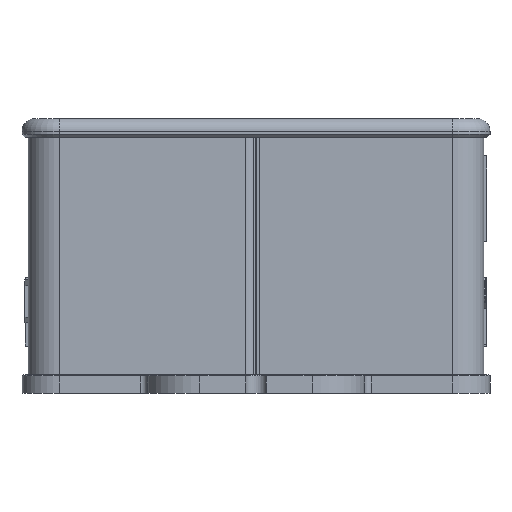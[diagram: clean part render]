
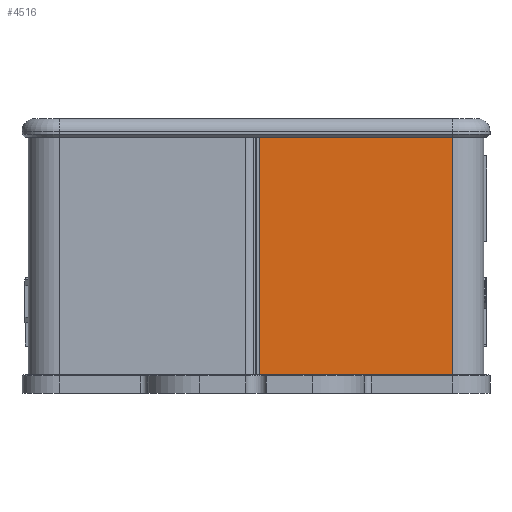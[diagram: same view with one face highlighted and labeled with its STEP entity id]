
A CAD part, left-side view. The second image highlights one B-rep face of the part: STEP entity #4516.
In plain terms, the highlighted planar face has unit normal (-1, 0, 0).
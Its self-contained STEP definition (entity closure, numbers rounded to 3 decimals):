
#1325=FACE_OUTER_BOUND('',#12101,.T.);
#4516=ADVANCED_FACE('',(#1325),#7871,.T.);
#7871=PLANE('',#64641);
#12101=EDGE_LOOP('',(#16023,#16024,#16025,#16026));
#16023=ORIENTED_EDGE('',*,*,#40496,.F.);
#16024=ORIENTED_EDGE('',*,*,#40497,.F.);
#16025=ORIENTED_EDGE('',*,*,#40498,.T.);
#16026=ORIENTED_EDGE('',*,*,#40499,.T.);
#34427=VERTEX_POINT('',#87118);
#34428=VERTEX_POINT('',#87119);
#34429=VERTEX_POINT('',#87121);
#34430=VERTEX_POINT('',#87123);
#40496=EDGE_CURVE('',#34427,#34428,#49654,.T.);
#40497=EDGE_CURVE('',#34429,#34427,#49655,.T.);
#40498=EDGE_CURVE('',#34429,#34430,#49656,.T.);
#40499=EDGE_CURVE('',#34430,#34428,#49657,.T.);
#49654=LINE('',#87117,#57237);
#49655=LINE('',#87120,#57238);
#49656=LINE('',#87122,#57239);
#49657=LINE('',#87124,#57240);
#57237=VECTOR('',#69721,1.);
#57238=VECTOR('',#69722,1.);
#57239=VECTOR('',#69723,1.);
#57240=VECTOR('',#69724,1.);
#64641=AXIS2_PLACEMENT_3D('',#87125,#69725,#69726);
#69721=DIRECTION('',(0.,-1.,0.));
#69722=DIRECTION('',(0.,0.,1.));
#69723=DIRECTION('',(0.,-1.,0.));
#69724=DIRECTION('',(0.,0.,1.));
#69725=DIRECTION('',(-1.,0.,0.));
#69726=DIRECTION('',(0.,1.,0.));
#87117=CARTESIAN_POINT('',(-47.85,-35.5,41.));
#87118=CARTESIAN_POINT('',(-47.85,-0.5,41.));
#87119=CARTESIAN_POINT('',(-47.85,-31.5,41.));
#87120=CARTESIAN_POINT('',(-47.85,-0.5,2.));
#87121=CARTESIAN_POINT('',(-47.85,-0.5,2.8));
#87122=CARTESIAN_POINT('',(-47.85,-35.5,2.8));
#87123=CARTESIAN_POINT('',(-47.85,-31.5,2.8));
#87124=CARTESIAN_POINT('',(-47.85,-31.5,22.));
#87125=CARTESIAN_POINT('',(-47.85,-35.5,22.));
